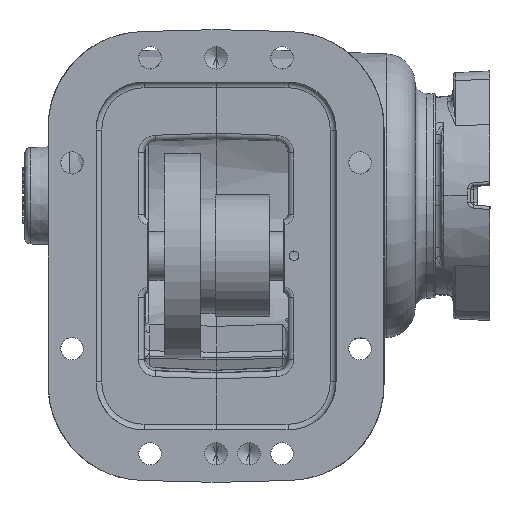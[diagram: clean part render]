
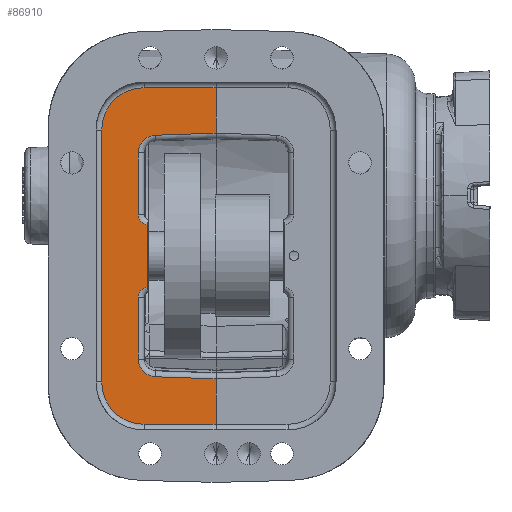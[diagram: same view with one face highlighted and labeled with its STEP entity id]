
A CAD part, front view. The second image highlights one B-rep face of the part: STEP entity #86910.
In plain terms, the highlighted planar face has unit normal (0, -1, 0).
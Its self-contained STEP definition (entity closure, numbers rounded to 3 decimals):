
#11840 = CARTESIAN_POINT ( 'NONE',  ( -12.062, -70.944, -61.479 ) ) ;
#11842 = DIRECTION ( 'NONE',  ( 0., 1., 0. ) ) ;
#11843 = DIRECTION ( 'NONE',  ( 0., 0., 1. ) ) ;
#11871 = DIRECTION ( 'NONE',  ( 0., 0., 1. ) ) ;
#11880 = CARTESIAN_POINT ( 'NONE',  ( -13.332, -70.944, -23.117 ) ) ;
#11934 = DIRECTION ( 'NONE',  ( 0., 0., 1. ) ) ;
#11945 = CARTESIAN_POINT ( 'NONE',  ( -12.062, -70.944, -17.155 ) ) ;
#11946 = DIRECTION ( 'NONE',  ( 0., 1., 0. ) ) ;
#11948 = DIRECTION ( 'NONE',  ( 0., 0., 1. ) ) ;
#11966 = CARTESIAN_POINT ( 'NONE',  ( -18.158, -70.944, 15.197 ) ) ;
#12014 = CARTESIAN_POINT ( 'NONE',  ( -8.76, -70.944, 15.197 ) ) ;
#12016 = DIRECTION ( 'NONE',  ( 0., 1., 0. ) ) ;
#12018 = DIRECTION ( 'NONE',  ( 0., 0., 1. ) ) ;
#12050 = CARTESIAN_POINT ( 'NONE',  ( 22.884, -70.944, 25.706 ) ) ;
#12052 = DIRECTION ( 'NONE',  ( 0.999, 0., 0.035 ) ) ;
#13831 = DIRECTION ( 'NONE',  ( 1., 0., 0. ) ) ;
#13832 = CARTESIAN_POINT ( 'NONE',  ( -15.11, -70.944, -105.992 ) ) ;
#13833 = DIRECTION ( 'NONE',  ( 0., -1., 0. ) ) ;
#13834 = DIRECTION ( 'NONE',  ( 0., 0., 1. ) ) ;
#13835 = CARTESIAN_POINT ( 'NONE',  ( 22.99, -70.944, -128.344 ) ) ;
#13846 = CARTESIAN_POINT ( 'NONE',  ( -37.462, -70.944, -105.992 ) ) ;
#13847 = DIRECTION ( 'NONE',  ( 0., 0., -1. ) ) ;
#13860 = CARTESIAN_POINT ( 'NONE',  ( -15.11, -70.944, 27.358 ) ) ;
#13861 = DIRECTION ( 'NONE',  ( 0., -1., 0. ) ) ;
#13862 = DIRECTION ( 'NONE',  ( 0., 0., 1. ) ) ;
#13878 = CARTESIAN_POINT ( 'NONE',  ( -15.11, -70.944, 49.71 ) ) ;
#13879 = DIRECTION ( 'NONE',  ( -1., 0., 0. ) ) ;
#16875 = AXIS2_PLACEMENT_3D ( 'NONE', #60681, #60683, #60685 ) ;
#18304 = ORIENTED_EDGE ( 'NONE', *, *, #87812, .F. ) ;
#18306 = ORIENTED_EDGE ( 'NONE', *, *, #108216, .T. ) ;
#18308 = ORIENTED_EDGE ( 'NONE', *, *, #108222, .T. ) ;
#18310 = ORIENTED_EDGE ( 'NONE', *, *, #108228, .T. ) ;
#18312 = ORIENTED_EDGE ( 'NONE', *, *, #108633, .T. ) ;
#18314 = ORIENTED_EDGE ( 'NONE', *, *, #108640, .T. ) ;
#18316 = ORIENTED_EDGE ( 'NONE', *, *, #108648, .T. ) ;
#18318 = ORIENTED_EDGE ( 'NONE', *, *, #108653, .T. ) ;
#18320 = ORIENTED_EDGE ( 'NONE', *, *, #108659, .T. ) ;
#18322 = ORIENTED_EDGE ( 'NONE', *, *, #108665, .T. ) ;
#18324 = ORIENTED_EDGE ( 'NONE', *, *, #87814, .F. ) ;
#18326 = ORIENTED_EDGE ( 'NONE', *, *, #108746, .T. ) ;
#18328 = ORIENTED_EDGE ( 'NONE', *, *, #108740, .T. ) ;
#18330 = ORIENTED_EDGE ( 'NONE', *, *, #108734, .T. ) ;
#18332 = ORIENTED_EDGE ( 'NONE', *, *, #108728, .T. ) ;
#18334 = ORIENTED_EDGE ( 'NONE', *, *, #108730, .T. ) ;
#24140 = VERTEX_POINT ( 'NONE', #77816 ) ;
#24166 = VERTEX_POINT ( 'NONE', #77829 ) ;
#24247 = VERTEX_POINT ( 'NONE', #77867 ) ;
#24290 = VERTEX_POINT ( 'NONE', #77883 ) ;
#24343 = VERTEX_POINT ( 'NONE', #77901 ) ;
#24374 = VERTEX_POINT ( 'NONE', #77913 ) ;
#24452 = VERTEX_POINT ( 'NONE', #77942 ) ;
#24471 = VERTEX_POINT ( 'NONE', #77949 ) ;
#24653 = VERTEX_POINT ( 'NONE', #78018 ) ;
#24682 = VERTEX_POINT ( 'NONE', #78025 ) ;
#24696 = VERTEX_POINT ( 'NONE', #78030 ) ;
#24719 = VERTEX_POINT ( 'NONE', #78039 ) ;
#24733 = VERTEX_POINT ( 'NONE', #78045 ) ;
#24756 = VERTEX_POINT ( 'NONE', #78052 ) ;
#24784 = VERTEX_POINT ( 'NONE', #78060 ) ;
#24805 = VERTEX_POINT ( 'NONE', #78069 ) ;
#27269 = AXIS2_PLACEMENT_3D ( 'NONE', #11840, #11842, #11843 ) ;
#27347 = AXIS2_PLACEMENT_3D ( 'NONE', #11945, #11946, #11948 ) ;
#27388 = AXIS2_PLACEMENT_3D ( 'NONE', #12014, #12016, #12018 ) ;
#27600 = AXIS2_PLACEMENT_3D ( 'NONE', #13832, #13833, #13834 ) ;
#27633 = AXIS2_PLACEMENT_3D ( 'NONE', #13860, #13861, #13862 ) ;
#37053 = VECTOR ( 'NONE', #73198, 1000. ) ;
#37065 = VECTOR ( 'NONE', #73214, 1000. ) ;
#37067 = LINE ( 'NONE', #73196, #37053 ) ;
#37073 = LINE ( 'NONE', #73212, #37065 ) ;
#49234 = CARTESIAN_POINT ( 'NONE',  ( -65.91, -70.944, 78.158 ) ) ;
#49238 = PLANE ( 'NONE',  #81881 ) ;
#49242 = DIRECTION ( 'NONE',  ( 0., 1., 0. ) ) ;
#49243 = DIRECTION ( 'NONE',  ( 0., 0., 1. ) ) ;
#57222 = FACE_OUTER_BOUND ( 'NONE', #103047, .T. ) ;
#60626 = DIRECTION ( 'NONE',  ( -0.999, 0., 0.035 ) ) ;
#60640 = CARTESIAN_POINT ( 'NONE',  ( -9.088, -70.944, -103.222 ) ) ;
#60679 = DIRECTION ( 'NONE',  ( 0., 0., 1. ) ) ;
#60681 = CARTESIAN_POINT ( 'NONE',  ( -8.76, -70.944, -93.83 ) ) ;
#60683 = DIRECTION ( 'NONE',  ( 0., 1., 0. ) ) ;
#60685 = DIRECTION ( 'NONE',  ( 0., 0., 1. ) ) ;
#60705 = CARTESIAN_POINT ( 'NONE',  ( -18.158, -70.944, -61.479 ) ) ;
#71414 = LINE ( 'NONE', #60640, #71430 ) ;
#71430 = VECTOR ( 'NONE', #60626, 1000. ) ;
#71437 = CIRCLE ( 'NONE', #16875, 9.398 ) ;
#71447 = LINE ( 'NONE', #60705, #71460 ) ;
#71460 = VECTOR ( 'NONE', #60679, 1000. ) ;
#72072 = CIRCLE ( 'NONE', #27269, 6.096 ) ;
#72080 = LINE ( 'NONE', #11880, #72083 ) ;
#72083 = VECTOR ( 'NONE', #11871, 1000. ) ;
#72087 = CIRCLE ( 'NONE', #27347, 6.096 ) ;
#72092 = LINE ( 'NONE', #11966, #72099 ) ;
#72099 = VECTOR ( 'NONE', #11934, 1000. ) ;
#72103 = CIRCLE ( 'NONE', #27388, 9.398 ) ;
#72112 = LINE ( 'NONE', #12050, #72115 ) ;
#72115 = VECTOR ( 'NONE', #12052, 1000. ) ;
#72156 = LINE ( 'NONE', #13835, #72162 ) ;
#72158 = CIRCLE ( 'NONE', #27600, 22.352 ) ;
#72162 = VECTOR ( 'NONE', #13831, 1000. ) ;
#72166 = LINE ( 'NONE', #13846, #72169 ) ;
#72169 = VECTOR ( 'NONE', #13847, 1000. ) ;
#72176 = CIRCLE ( 'NONE', #27633, 22.352 ) ;
#72182 = LINE ( 'NONE', #13878, #72185 ) ;
#72185 = VECTOR ( 'NONE', #13879, 1000. ) ;
#73196 = CARTESIAN_POINT ( 'NONE',  ( 22.99, -70.944, 78.158 ) ) ;
#73198 = DIRECTION ( 'NONE',  ( 0., 0., -1. ) ) ;
#73212 = CARTESIAN_POINT ( 'NONE',  ( 22.99, -70.944, 78.158 ) ) ;
#73214 = DIRECTION ( 'NONE',  ( 0., 0., -1. ) ) ;
#77816 = CARTESIAN_POINT ( 'NONE',  ( -37.462, -70.944, 27.358 ) ) ;
#77829 = CARTESIAN_POINT ( 'NONE',  ( -15.11, -70.944, -128.344 ) ) ;
#77867 = CARTESIAN_POINT ( 'NONE',  ( -37.462, -70.944, -105.992 ) ) ;
#77883 = CARTESIAN_POINT ( 'NONE',  ( -18.158, -70.944, -17.155 ) ) ;
#77901 = CARTESIAN_POINT ( 'NONE',  ( -9.088, -70.944, -103.222 ) ) ;
#77913 = CARTESIAN_POINT ( 'NONE',  ( 22.99, -70.944, 25.709 ) ) ;
#77942 = CARTESIAN_POINT ( 'NONE',  ( 22.99, -70.944, 49.71 ) ) ;
#77949 = CARTESIAN_POINT ( 'NONE',  ( -15.11, -70.944, 49.71 ) ) ;
#78018 = CARTESIAN_POINT ( 'NONE',  ( -18.158, -70.944, 15.197 ) ) ;
#78025 = CARTESIAN_POINT ( 'NONE',  ( 22.99, -70.944, -128.344 ) ) ;
#78030 = CARTESIAN_POINT ( 'NONE',  ( 22.99, -70.944, -104.342 ) ) ;
#78039 = CARTESIAN_POINT ( 'NONE',  ( -13.332, -70.944, -55.516 ) ) ;
#78045 = CARTESIAN_POINT ( 'NONE',  ( -18.158, -70.944, -93.83 ) ) ;
#78052 = CARTESIAN_POINT ( 'NONE',  ( -18.158, -70.944, -61.479 ) ) ;
#78060 = CARTESIAN_POINT ( 'NONE',  ( -13.332, -70.944, -23.117 ) ) ;
#78069 = CARTESIAN_POINT ( 'NONE',  ( -9.088, -70.944, 24.589 ) ) ;
#81881 = AXIS2_PLACEMENT_3D ( 'NONE', #49234, #49242, #49243 ) ;
#86910 = ADVANCED_FACE ( 'NONE', ( #57222 ), #49238, .F. ) ;
#87812 = EDGE_CURVE ( 'NONE', #24696, #24682, #37067, .T. ) ;
#87814 = EDGE_CURVE ( 'NONE', #24452, #24374, #37073, .T. ) ;
#103047 = EDGE_LOOP ( 'NONE', ( #18304, #18306, #18308, #18310, #18312, #18314, #18316, #18318, #18320, #18322, #18324, #18326, #18328, #18330, #18332, #18334 ) ) ;
#108216 = EDGE_CURVE ( 'NONE', #24696, #24343, #71414, .T. ) ;
#108222 = EDGE_CURVE ( 'NONE', #24343, #24733, #71437, .T. ) ;
#108228 = EDGE_CURVE ( 'NONE', #24733, #24756, #71447, .T. ) ;
#108633 = EDGE_CURVE ( 'NONE', #24756, #24719, #72072, .T. ) ;
#108640 = EDGE_CURVE ( 'NONE', #24719, #24784, #72080, .T. ) ;
#108648 = EDGE_CURVE ( 'NONE', #24784, #24290, #72087, .T. ) ;
#108653 = EDGE_CURVE ( 'NONE', #24290, #24653, #72092, .T. ) ;
#108659 = EDGE_CURVE ( 'NONE', #24653, #24805, #72103, .T. ) ;
#108665 = EDGE_CURVE ( 'NONE', #24805, #24374, #72112, .T. ) ;
#108728 = EDGE_CURVE ( 'NONE', #24247, #24166, #72158, .T. ) ;
#108730 = EDGE_CURVE ( 'NONE', #24166, #24682, #72156, .T. ) ;
#108734 = EDGE_CURVE ( 'NONE', #24140, #24247, #72166, .T. ) ;
#108740 = EDGE_CURVE ( 'NONE', #24471, #24140, #72176, .T. ) ;
#108746 = EDGE_CURVE ( 'NONE', #24452, #24471, #72182, .T. ) ;
